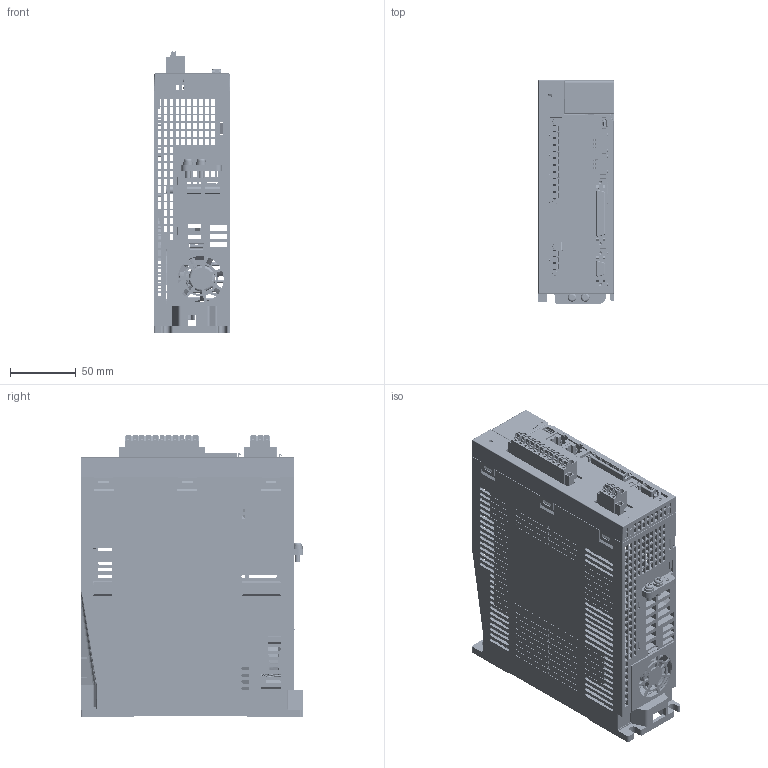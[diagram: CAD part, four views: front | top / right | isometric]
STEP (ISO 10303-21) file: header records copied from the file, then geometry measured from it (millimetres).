
FILE_DESCRIPTION(/* description */ (''),/* implementation_level */ '2;1');
FILE_NAME(/* name */ '\\EMN0D5F01\rp_inventor\RP Mechanical Design\P Series Files\P Series Step from ipt files\PD-10P.stp',/* time_stamp */ '2015-06-05T16:37:02-07:00',/* author */ ('jb17719'),/* organization */ (''),/* preprocessor_version */ 'ST-DEVELOPER v15.2',/* originating_system */ 'Autodesk Inventor 2014',/* authorisation */ '');
FILE_SCHEMA (('AUTOMOTIVE_DESIGN { 1 0 10303 214 3 1 1 }'));
Products named in the file (1): PD-10P.STEP
Bounding box: 58 x 169 x 214.23 mm (x, y, z)
Volume: 446259.6 mm3; surface area: 366549.6 mm2
Topology: 52 solids, 52 shells, 12379 faces, 34554 edges, 22569 vertices
Faces by surface type: plane 9342, cylinder 1884, bspline 772, torus 160, sphere 122, cone 99
Full cylindrical faces by diameter (mm): 0.45 x13, 0.7 x5, 0.8 x2, 1.5 x2, 1.8 x2, 2 x4, 2.013 x4, 2.2 x4, 2.3 x6, 2.5 x13, 2.6 x6, 3 x2, 3.2 x2, 3.5 x5, 3.8 x8, 3.9 x8, 4 x2, 4.75 x1, 5 x2, 5.5 x1, 6 x3, 6.6 x2, 7.8 x2, 17.46 x1, 38 x1
Entity records: 429989 total; most frequent: CARTESIAN_POINT 113379, ORIENTED_EDGE 68474, DIRECTION 59964, EDGE_CURVE 34237, LINE 27868, VECTOR 27868, VERTEX_POINT 22537, AXIS2_PLACEMENT_3D 16048
